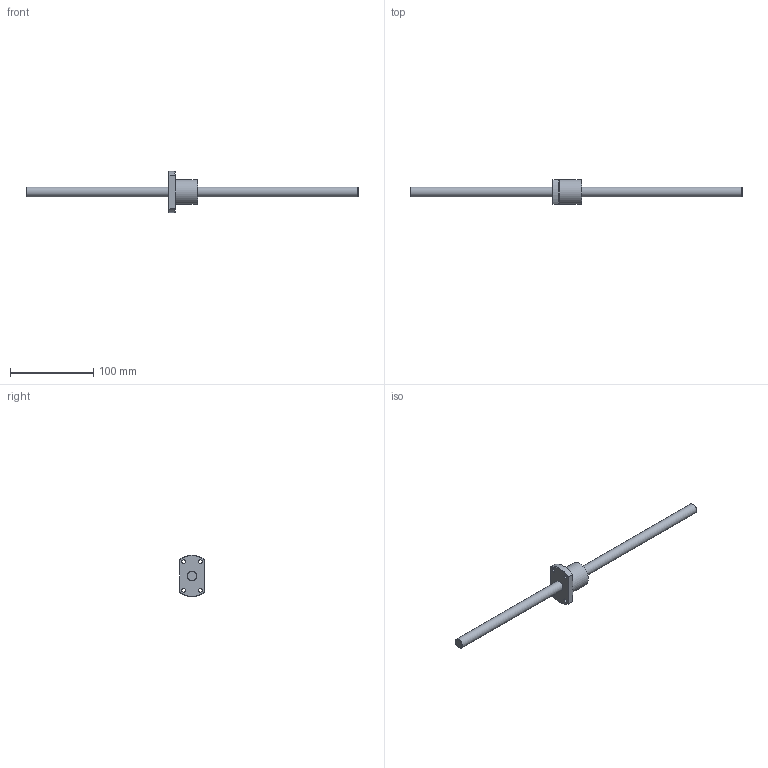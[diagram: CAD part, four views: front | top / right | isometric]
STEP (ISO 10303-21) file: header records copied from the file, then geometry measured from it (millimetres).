
FILE_DESCRIPTION((''),'2;1');
FILE_NAME('D:\製品 (図面)\カタログ用3D\ネジ関連\STEP形式\RBSMA\RBSMA1204-0400.stp','2010-06-02T14:41:49',('Tsuchiya'),(''),'Autodesk Inventor 10','Autodesk Inventor 10','');
FILE_SCHEMA(('AUTOMOTIVE_DESIGN { 1 0 10303 214 1 1 1 1 }'));
Length unit declared in the file: millimetre
Products named in the file (3): RBSMA1204-0400; RBSMA1204-04001; RBSMA1204-04002
Assembly tree (2 placements, depth 2):
  RBSMA1204-0400
    RBSMA1204-04001
    RBSMA1204-04002
Bounding box: 400 x 30 x 50 mm (x, y, z)
Volume: 71054.9 mm3; surface area: 23143 mm2
Topology: 2 solids, 2 shells, 24 faces, 58 edges, 38 vertices
Faces by surface type: cylinder 9, plane 8, cone 7
Full cylindrical faces by diameter (mm): 4.5 x4, 12 x2, 30 x1
Entity records: 714 total; most frequent: CARTESIAN_POINT 123, DIRECTION 120, ORIENTED_EDGE 88, AXIS2_PLACEMENT_3D 55, EDGE_CURVE 44, EDGE_LOOP 44, VERTEX_POINT 34, CIRCLE 26
